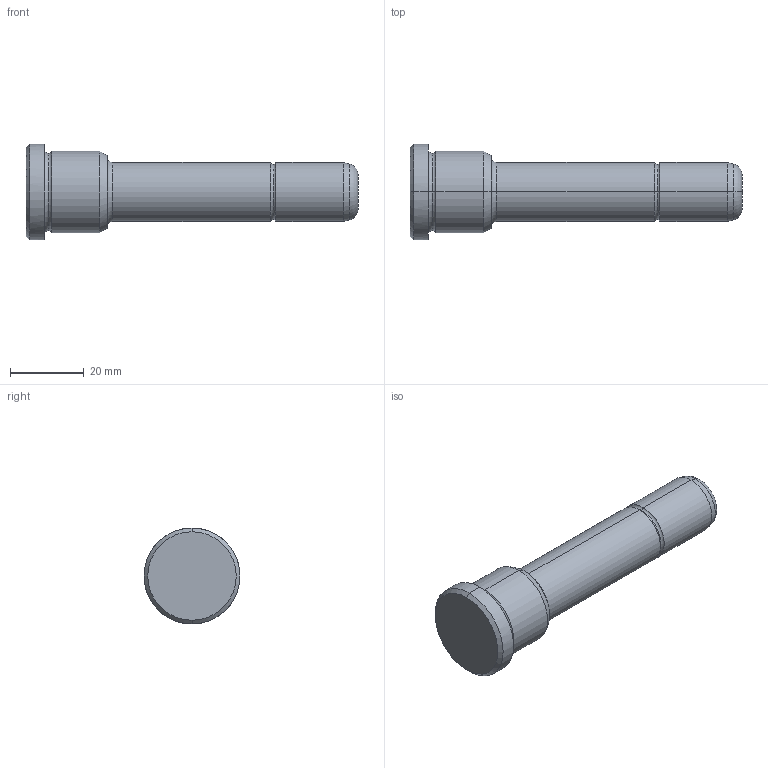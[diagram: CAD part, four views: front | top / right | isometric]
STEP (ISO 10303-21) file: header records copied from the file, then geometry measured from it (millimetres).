
FILE_DESCRIPTION(('CATIA V5 STEP Exchange'),'2;1');
FILE_NAME('C:\Users\Utente\Desktop\IO LAVORO\3D X SITO CF\X SITO\PLASTICA\351\351-16X22X90.stp','2021-08-18T10:56:43+00:00',('none'),('none'),'CATIA Version 5 Release 20 GA (IN-10)','CATIA V5 STEP AP203','none');
FILE_SCHEMA(('CONFIG_CONTROL_DESIGN'));
Length unit declared in the file: millimetre
Products named in the file (1): 351-16X22X90
Bounding box: 90 x 26 x 26 mm (x, y, z)
Volume: 22477.6 mm3; surface area: 5866.4 mm2
Topology: 1 solids, 1 shells, 30 faces, 86 edges, 60 vertices
Faces by surface type: torus 12, cylinder 8, cone 6, plane 4
Entity records: 1112 total; most frequent: CARTESIAN_POINT 289, ORIENTED_EDGE 172, DIRECTION 138, AXIS2_PLACEMENT_3D 95, EDGE_CURVE 86, CIRCLE 64, VERTEX_POINT 60, EDGE_LOOP 32
